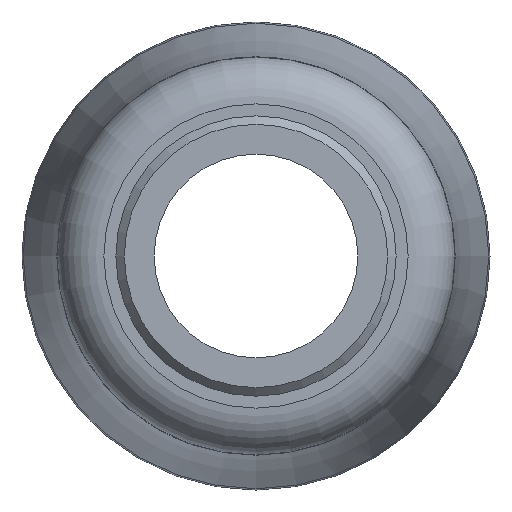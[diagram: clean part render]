
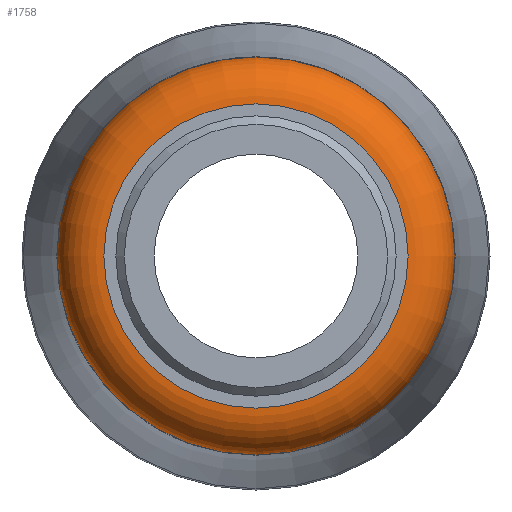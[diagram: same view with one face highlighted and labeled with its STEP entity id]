
A CAD part, left-side view. The second image highlights one B-rep face of the part: STEP entity #1758.
In plain terms, the highlighted toroidal (fillet/blend) face has major radius 22.75 mm and minor radius 7 mm.
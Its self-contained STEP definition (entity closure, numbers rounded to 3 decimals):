
#16=TOROIDAL_SURFACE('',#1948,22.75,7.);
#217=FACE_OUTER_BOUND('',#318,.T.);
#318=EDGE_LOOP('',(#1314,#1315,#1316,#1317,#1318,#1319,#1320));
#610=CIRCLE('',#1916,29.75);
#611=CIRCLE('',#1917,29.75);
#612=CIRCLE('',#1918,29.75);
#634=CIRCLE('',#1949,7.);
#635=CIRCLE('',#1950,22.75);
#636=CIRCLE('',#1951,22.75);
#742=VERTEX_POINT('',#3044);
#743=VERTEX_POINT('',#3046);
#744=VERTEX_POINT('',#3048);
#762=VERTEX_POINT('',#3129);
#763=VERTEX_POINT('',#3131);
#934=EDGE_CURVE('',#743,#742,#610,.T.);
#935=EDGE_CURVE('',#744,#743,#611,.T.);
#936=EDGE_CURVE('',#742,#744,#612,.T.);
#964=EDGE_CURVE('',#744,#762,#634,.T.);
#965=EDGE_CURVE('',#762,#763,#635,.T.);
#966=EDGE_CURVE('',#763,#762,#636,.T.);
#1314=ORIENTED_EDGE('',*,*,#934,.T.);
#1315=ORIENTED_EDGE('',*,*,#936,.T.);
#1316=ORIENTED_EDGE('',*,*,#964,.T.);
#1317=ORIENTED_EDGE('',*,*,#965,.T.);
#1318=ORIENTED_EDGE('',*,*,#966,.T.);
#1319=ORIENTED_EDGE('',*,*,#964,.F.);
#1320=ORIENTED_EDGE('',*,*,#935,.T.);
#1758=ADVANCED_FACE('',(#217),#16,.T.);
#1916=AXIS2_PLACEMENT_3D('',#3047,#2214,#2215);
#1917=AXIS2_PLACEMENT_3D('',#3049,#2216,#2217);
#1918=AXIS2_PLACEMENT_3D('',#3050,#2218,#2219);
#1948=AXIS2_PLACEMENT_3D('',#3128,#2282,#2283);
#1949=AXIS2_PLACEMENT_3D('',#3130,#2284,#2285);
#1950=AXIS2_PLACEMENT_3D('',#3132,#2286,#2287);
#1951=AXIS2_PLACEMENT_3D('',#3133,#2288,#2289);
#2214=DIRECTION('center_axis',(-1.,0.,0.));
#2215=DIRECTION('ref_axis',(0.,-1.,0.));
#2216=DIRECTION('center_axis',(-1.,0.,0.));
#2217=DIRECTION('ref_axis',(0.,-1.,0.));
#2218=DIRECTION('center_axis',(-1.,0.,0.));
#2219=DIRECTION('ref_axis',(0.,-1.,0.));
#2282=DIRECTION('center_axis',(1.,0.,0.));
#2283=DIRECTION('ref_axis',(0.,0.,-1.));
#2284=DIRECTION('center_axis',(0.,-1.,0.));
#2285=DIRECTION('ref_axis',(0.,0.,1.));
#2286=DIRECTION('center_axis',(1.,0.,0.));
#2287=DIRECTION('ref_axis',(0.,-1.,0.));
#2288=DIRECTION('center_axis',(1.,0.,0.));
#2289=DIRECTION('ref_axis',(0.,-1.,0.));
#3044=CARTESIAN_POINT('',(26.,-29.75,0.));
#3046=CARTESIAN_POINT('',(26.,29.75,0.));
#3047=CARTESIAN_POINT('Origin',(26.,0.,0.));
#3048=CARTESIAN_POINT('',(26.,0.,29.75));
#3049=CARTESIAN_POINT('Origin',(26.,0.,0.));
#3050=CARTESIAN_POINT('Origin',(26.,0.,0.));
#3128=CARTESIAN_POINT('Origin',(26.,0.,0.));
#3129=CARTESIAN_POINT('',(19.,0.,22.75));
#3130=CARTESIAN_POINT('Origin',(26.,0.,22.75));
#3131=CARTESIAN_POINT('',(19.,22.75,0.));
#3132=CARTESIAN_POINT('Origin',(19.,0.,0.));
#3133=CARTESIAN_POINT('Origin',(19.,0.,0.));
